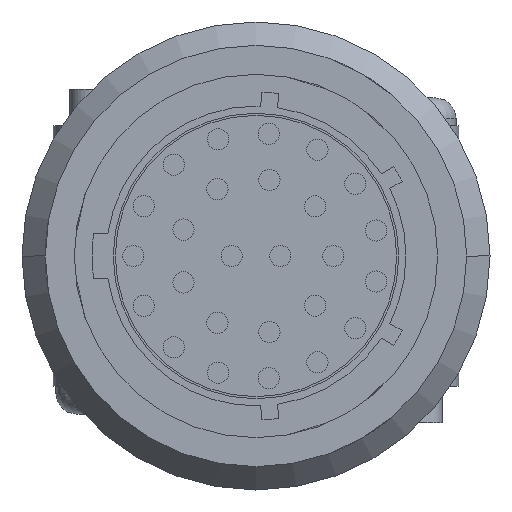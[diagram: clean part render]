
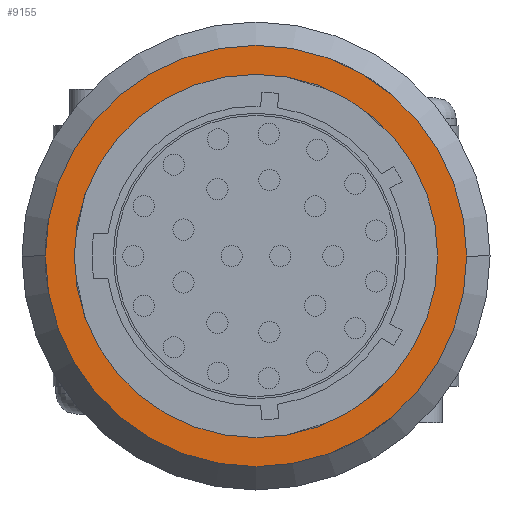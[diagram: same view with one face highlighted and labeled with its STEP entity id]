
A CAD part, left-side view. The second image highlights one B-rep face of the part: STEP entity #9155.
In plain terms, the highlighted planar face has unit normal (-1, 0, 0).
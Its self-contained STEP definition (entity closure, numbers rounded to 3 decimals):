
#20 = ORIENTED_EDGE ( 'NONE', *, *, #6874, .T. ) ;
#1416 = DIRECTION ( 'NONE',  ( -1., 0., 0. ) ) ;
#1447 = EDGE_CURVE ( 'NONE', #3238, #9478, #8585, .T. ) ;
#1644 = CIRCLE ( 'NONE', #1657, 12.85 ) ;
#1657 = AXIS2_PLACEMENT_3D ( 'NONE', #3990, #9448, #4777 ) ;
#1870 = CARTESIAN_POINT ( 'NONE',  ( 0., 14.9, 0. ) ) ;
#2173 = CARTESIAN_POINT ( 'NONE',  ( 0., 0., 0. ) ) ;
#2737 = CARTESIAN_POINT ( 'NONE',  ( 0., 0., -12.85 ) ) ;
#3049 = CIRCLE ( 'NONE', #3826, 14.9 ) ;
#3238 = VERTEX_POINT ( 'NONE', #2737 ) ;
#3369 = AXIS2_PLACEMENT_3D ( 'NONE', #2173, #5183, #5000 ) ;
#3647 = DIRECTION ( 'NONE',  ( -1., 0., 0. ) ) ;
#3826 = AXIS2_PLACEMENT_3D ( 'NONE', #6081, #1416, #6856 ) ;
#3863 = CARTESIAN_POINT ( 'NONE',  ( 0., 0., 12.85 ) ) ;
#3990 = CARTESIAN_POINT ( 'NONE',  ( 0., 0., 0. ) ) ;
#4034 = DIRECTION ( 'NONE',  ( 0., 1., 0. ) ) ;
#4777 = DIRECTION ( 'NONE',  ( 0., 0., 1. ) ) ;
#4790 = PLANE ( 'NONE',  #6112 ) ;
#4795 = ORIENTED_EDGE ( 'NONE', *, *, #1447, .F. ) ;
#5000 = DIRECTION ( 'NONE',  ( 0., 0., 1. ) ) ;
#5028 = EDGE_LOOP ( 'NONE', ( #20, #5050 ) ) ;
#5050 = ORIENTED_EDGE ( 'NONE', *, *, #9388, .T. ) ;
#5183 = DIRECTION ( 'NONE',  ( -1., 0., 0. ) ) ;
#5409 = AXIS2_PLACEMENT_3D ( 'NONE', #8327, #3647, #9103 ) ;
#5681 = CIRCLE ( 'NONE', #5409, 14.9 ) ;
#6081 = CARTESIAN_POINT ( 'NONE',  ( 0., 0., 0. ) ) ;
#6112 = AXIS2_PLACEMENT_3D ( 'NONE', #7124, #8726, #4034 ) ;
#6672 = EDGE_LOOP ( 'NONE', ( #7261, #4795 ) ) ;
#6816 = FACE_OUTER_BOUND ( 'NONE', #5028, .T. ) ;
#6856 = DIRECTION ( 'NONE',  ( 0., -1., 0. ) ) ;
#6874 = EDGE_CURVE ( 'NONE', #9862, #8720, #5681, .T. ) ;
#7124 = CARTESIAN_POINT ( 'NONE',  ( 0., 0., 0. ) ) ;
#7261 = ORIENTED_EDGE ( 'NONE', *, *, #8146, .F. ) ;
#8146 = EDGE_CURVE ( 'NONE', #9478, #3238, #1644, .T. ) ;
#8230 = CARTESIAN_POINT ( 'NONE',  ( 0., -14.9, 0. ) ) ;
#8327 = CARTESIAN_POINT ( 'NONE',  ( 0., 0., 0. ) ) ;
#8585 = CIRCLE ( 'NONE', #3369, 12.85 ) ;
#8720 = VERTEX_POINT ( 'NONE', #1870 ) ;
#8726 = DIRECTION ( 'NONE',  ( 1., 0., 0. ) ) ;
#9103 = DIRECTION ( 'NONE',  ( 0., -1., 0. ) ) ;
#9155 = ADVANCED_FACE ( 'NONE', ( #9160, #6816 ), #4790, .F. ) ;
#9160 = FACE_BOUND ( 'NONE', #6672, .T. ) ;
#9388 = EDGE_CURVE ( 'NONE', #8720, #9862, #3049, .T. ) ;
#9448 = DIRECTION ( 'NONE',  ( -1., 0., 0. ) ) ;
#9478 = VERTEX_POINT ( 'NONE', #3863 ) ;
#9862 = VERTEX_POINT ( 'NONE', #8230 ) ;
